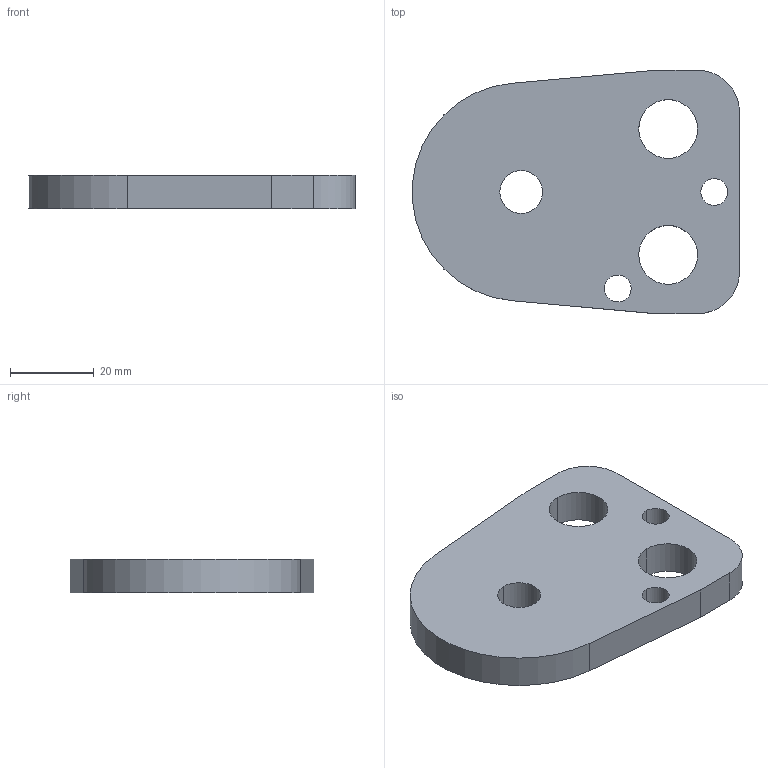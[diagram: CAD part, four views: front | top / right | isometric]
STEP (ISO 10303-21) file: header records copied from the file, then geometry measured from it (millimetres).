
FILE_DESCRIPTION(/* description */ (''),/* implementation_level */ '2;1');
FILE_NAME(/* name */ '3d_bpc38-8_03405_r00.stp',/* time_stamp */ '2011-01-10T14:17:09+09:00',/* author */ ('MISUMI'),/* organization */ (''),/* preprocessor_version */ 'ST-DEVELOPER v11',/* originating_system */ 'UGS - NX 5.0',/* authorisation */ '');
FILE_SCHEMA (('CONFIG_CONTROL_DESIGN'));
Length unit declared in the file: millimetre
Products named in the file (1): 3d_bpc38-8_03405_r00
Bounding box: 77.9 x 58 x 8 mm (x, y, z)
Volume: 27908.6 mm3; surface area: 10141.9 mm2
Topology: 1 solids, 1 shells, 20 faces, 54 edges, 36 vertices
Faces by surface type: cylinder 13, plane 7
Entity records: 750 total; most frequent: DIRECTION 122, CARTESIAN_POINT 111, ORIENTED_EDGE 108, EDGE_CURVE 54, AXIS2_PLACEMENT_3D 47, VERTEX_POINT 36, EDGE_LOOP 30, LINE 28
